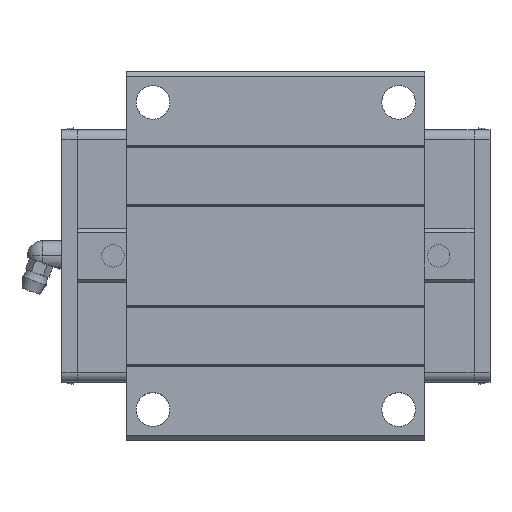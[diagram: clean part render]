
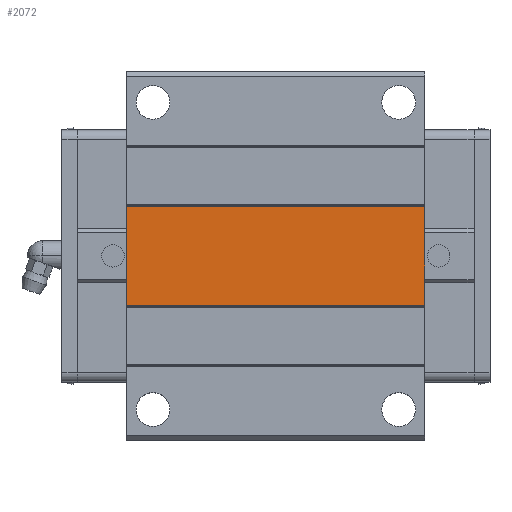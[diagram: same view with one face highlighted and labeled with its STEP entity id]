
A CAD part, top view. The second image highlights one B-rep face of the part: STEP entity #2072.
In plain terms, the highlighted planar face has unit normal (0, 0, 1).
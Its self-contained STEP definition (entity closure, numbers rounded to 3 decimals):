
#2011=CARTESIAN_POINT('POINT1827',(118.2,16.05,
   50.8));
#2012=VERTEX_POINT('VERTEX1827',#2011);
#2020=CARTESIAN_POINT('POINT1828',(21.2,16.05,
   50.8));
#2021=VERTEX_POINT('VERTEX1828',#2020);
#2028=CARTESIAN_POINT('POS3110',(21.2,16.05,
   50.8));
#2029=DIRECTION('DIR4419',(1.,0.,0.));
#2030=VECTOR('VEC1801',#2029,1.);
#2031=LINE('STRAIGHT1801',#2028,#2030);
#2032=EDGE_CURVE('EDGE2825',#2021,#2012,#2031,.T.);
#2042=CARTESIAN_POINT('POINT1829',(118.2,-16.05,50.8)
   );
#2043=VERTEX_POINT('VERTEX1829',#2042);
#2044=CARTESIAN_POINT('POS3112',(118.2,16.05,
   50.8));
#2045=DIRECTION('DIR4422',(0.,1.,0.));
#2046=VECTOR('VEC1802',#2045,1.);
#2047=LINE('STRAIGHT1802',#2044,#2046);
#2048=EDGE_CURVE('EDGE2826',#2043,#2012,#2047,.T.);
#2049=ORIENTED_EDGE('COEDGE5564',*,*,#2048,.T.);
#2050=ORIENTED_EDGE('COEDGE5565',*,*,#2032,.F.);
#2051=CARTESIAN_POINT('POINT1830',(21.2,-16.05,50.8))
   ;
#2052=VERTEX_POINT('VERTEX1830',#2051);
#2053=CARTESIAN_POINT('POS3113',(21.2,16.05,
   50.8));
#2054=DIRECTION('DIR4423',(0.,-1.,0.));
#2055=VECTOR('VEC1803',#2054,1.);
#2056=LINE('STRAIGHT1803',#2053,#2055);
#2057=EDGE_CURVE('EDGE2827',#2021,#2052,#2056,.T.);
#2058=ORIENTED_EDGE('COEDGE5566',*,*,#2057,.T.);
#2059=CARTESIAN_POINT('POS3114',(21.2,-16.05,50.8));
#2060=DIRECTION('DIR4424',(1.,0.,0.));
#2061=VECTOR('VEC1804',#2060,1.);
#2062=LINE('STRAIGHT1804',#2059,#2061);
#2063=EDGE_CURVE('EDGE2828',#2052,#2043,#2062,.T.);
#2064=ORIENTED_EDGE('COEDGE5567',*,*,#2063,.T.);
#2065=EDGE_LOOP('NONE',(#2049,#2050,#2058,#2064));
#2066=FACE_BOUND('LOOP1',#2065,.T.);
#2067=CARTESIAN_POINT('POS3115',(21.2,-16.05,50.8));
#2068=DIRECTION('DIR4425',(0.,0.,1.));
#2069=DIRECTION('DIR4426',(1.,0.,0.));
#2070=AXIS2_PLACEMENT_3D('AXIS1311',#2067,#2068,#2069);
#2071=PLANE('PLANE583',#2070);
#2072=ADVANCED_FACE('FACE1104',(#2066),#2071,.T.);
